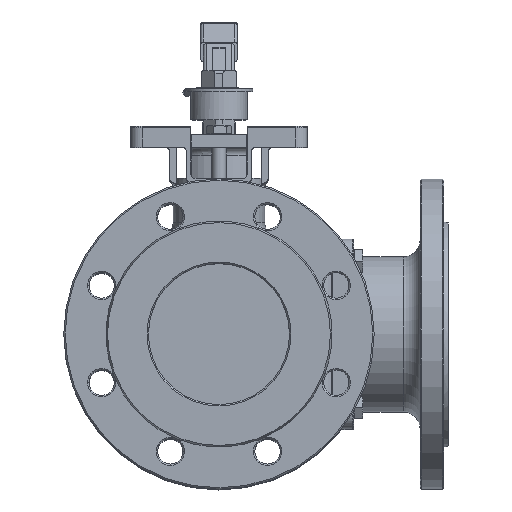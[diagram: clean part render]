
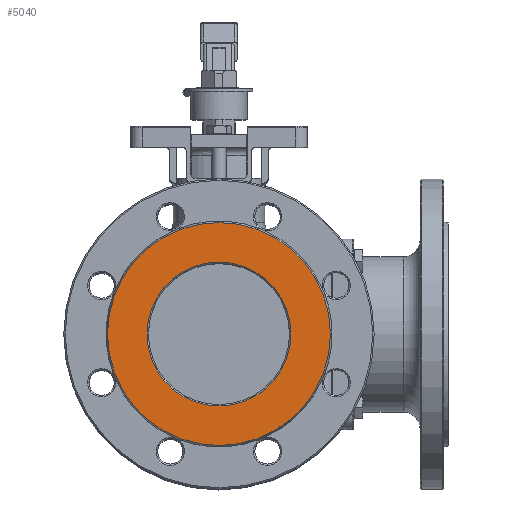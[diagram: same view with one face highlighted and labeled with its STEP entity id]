
A CAD part, top view. The second image highlights one B-rep face of the part: STEP entity #5040.
In plain terms, the highlighted planar face has unit normal (0, 0, 1).
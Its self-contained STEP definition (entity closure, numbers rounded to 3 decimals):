
#5040=ADVANCED_FACE('',(#14333,#14335),#14337,.T.);
#14333=FACE_BOUND('',#14334,.T.);
#14334=EDGE_LOOP('',(#19137));
#14335=FACE_BOUND('',#14336,.T.);
#14336=EDGE_LOOP('',(#19138));
#14337=PLANE('',#14338);
#14338=AXIS2_PLACEMENT_3D('',#14339,#14340,#14341);
#14339=CARTESIAN_POINT('',(0.,0.,162.5));
#14340=DIRECTION('',(0.,0.,1.));
#14341=DIRECTION('',(1.,0.,0.));
#19137=ORIENTED_EDGE('',*,*,#21909,.T.);
#19138=ORIENTED_EDGE('',*,*,#21920,.F.);
#21909=EDGE_CURVE('',#25623,#25623,#25624,.T.);
#21920=EDGE_CURVE('',#25637,#25637,#25638,.T.);
#25623=VERTEX_POINT('',#45684);
#25624=CIRCLE('',#45685,79.);
#25637=VERTEX_POINT('',#45977);
#25638=CIRCLE('',#45978,51.);
#45684=CARTESIAN_POINT('',(79.,0.,162.5));
#45685=AXIS2_PLACEMENT_3D('',#45686,#45687,#45688);
#45686=CARTESIAN_POINT('',(0.,0.,162.5));
#45687=DIRECTION('',(0.,0.,1.));
#45688=DIRECTION('',(1.,0.,0.));
#45977=CARTESIAN_POINT('',(51.,0.,162.5));
#45978=AXIS2_PLACEMENT_3D('',#45979,#45980,#45981);
#45979=CARTESIAN_POINT('',(0.,0.,162.5));
#45980=DIRECTION('',(0.,0.,1.));
#45981=DIRECTION('',(1.,0.,0.));
